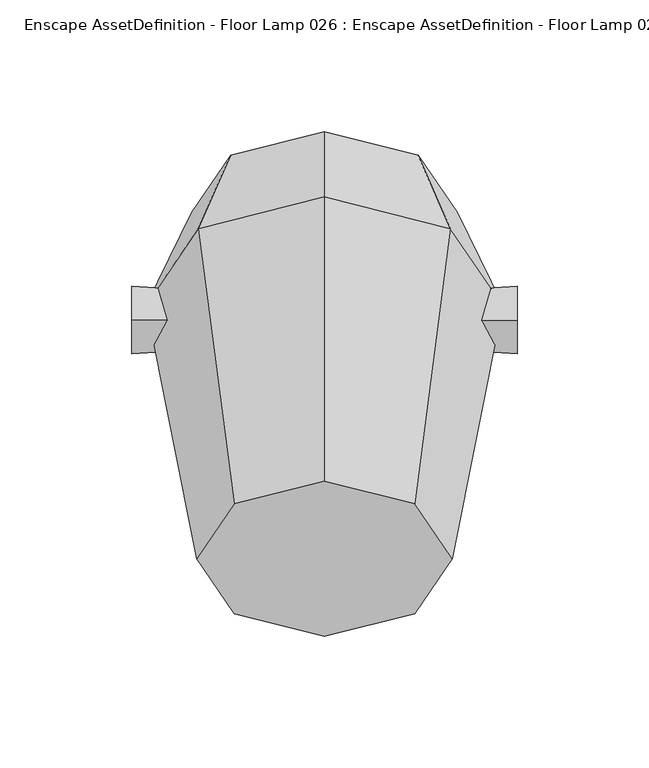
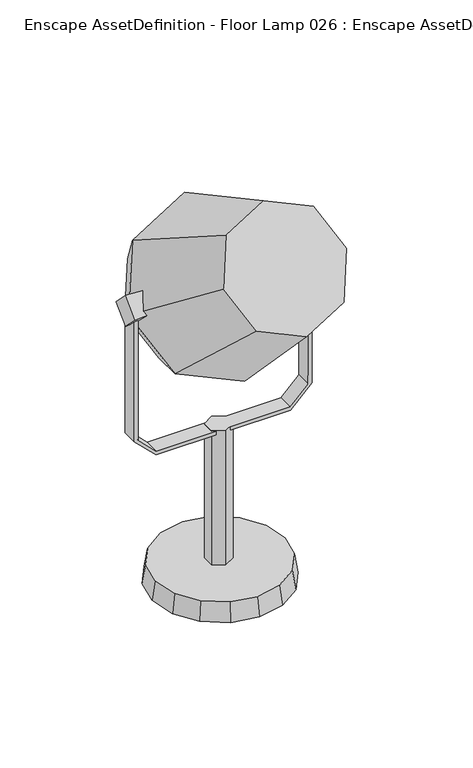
"""IFC4 building model written with IfcOpenShell, lengths in millimetres: geographic element geometry, Enscape AssetDefinition - Floor Lamp 026 : Enscape AssetDefinition - Floor Lamp 026 2."""

from ifc_helpers import new_model, si_unit, origin, place, context, project, spatial, triangles, source, transform, mapped, element, save


def enscape_assetdefinition_floor_lamp_026_enscape_de616a6a(model_context):
    return source(origin(), model_context, "Body", "Tessellation", [
        triangles([(-19.610256, 45.318155, 15.7895272), (0.0, 51.5293992, 0.2342534), (-37.8686188, -39.8936405, 0.2342534), (-37.8686188, 35.843597, 0.2342534), (-49.4775713, -22.519374, 0.2342534), (37.8686188, 35.843597, 0.2342534), (49.4775713, 18.4693305, 0.2342534), (-21.2436797, 46.9522849, 0.2342534), (53.554421, -2.0250222, 0.2342534), (37.8686188, -39.8936405, 0.2342534), (20.4943522, -51.5025931, 0.2342534), (0.0, -55.5794472, 0.2342534), (36.2351951, 34.2101688, 15.7895272), (47.3431813, 17.5852354, 15.7895272), (47.3431813, -21.6352801, 15.7895272), (-36.2351951, -38.2595106, 15.7895272), (51.2436427, -2.0250222, 15.7895272), (36.2351951, -38.2595106, 15.7895272), (49.4775713, -22.519374, 0.2342534), (19.610256, -49.3681985, 15.7895272), (0.0, -53.2686644, 15.7895272), (-19.610256, -49.3681985, 15.7895272), (-20.4943522, -51.5025931, 0.2342534), (-51.2436427, -2.0250222, 15.7895272), (-47.3431813, 17.5852354, 15.7895272), (-47.3431813, -21.6352801, 15.7895272), (-53.554421, -2.0250222, 0.2342534), (-49.4775713, 18.4693305, 0.2342534), (-36.2351951, 34.2101688, 15.7895272), (0.0, 49.2193249, 15.7895272), (20.4943522, 47.4532536, 0.2342534), (19.610256, 45.318155, 15.7895272), (-8.3794979, 4.8381795, 15.7895272), (-8.3794979, -4.8381795, 127.491019), (-8.3794979, -4.8381795, 15.7895272), (0.0, 9.675654, 15.7895272), (0.0, -9.675654, 15.7895272), (8.3794979, 4.8381795, 15.7895272), (8.3794979, -4.8381795, 15.7895272), (8.3794979, -4.8381795, 127.491019), (0.0, -9.675654, 127.491019), (8.3794979, 4.8381795, 127.491019), (-8.3794979, 4.8381795, 127.491019), (0.0, 9.675654, 127.491019), (67.0388177, -6.1787863, 140.9351929), (67.0388177, 6.1787863, 140.9351929), (67.0388177, -6.1787863, 246.9024076), (67.0388177, 6.1787863, 246.9024076), (70.0587097, -6.1787863, 246.9024076), (70.0587097, 6.1787863, 246.9024076), (53.0125391, -6.1787863, 123.6519455), (70.0587097, -6.1787863, 140.6973985), (70.0587097, 6.1787863, 140.6973985), (-53.0125391, -6.1787863, 123.6519455), (53.0125391, 6.1787863, 123.6519455), (52.7747583, 6.1787863, 126.6718375), (-52.7747583, 6.1787863, 126.6718375), (-53.0125391, 6.1787863, 123.6519455), (-70.0587097, -6.1787863, 140.6973985), (-67.0388177, -6.1787863, 140.9351929), (-70.0587097, 6.1787863, 140.6973985), (-67.0388177, 6.1787863, 140.9351929), (-70.0587097, 6.1787863, 246.9024076), (52.7747583, -6.1787863, 126.6718375), (-52.7747583, -6.1787863, 126.6718375), (-70.0587097, -6.1787863, 246.9024076), (-67.0388177, -6.1787863, 246.9024076), (-67.0388177, 6.1787863, 246.9024076), (58.5633494, 0.0, 234.9992097), (58.5633494, 11.9038837, 246.9024076), (73.2465284, -12.8535975, 246.9024076), (73.2465284, 0.0, 234.0487953), (73.2465284, 12.8535975, 246.9024076), (58.5633494, 0.0, 258.8062958), (58.5633494, -11.9038837, 246.9024076), (73.2465284, 0.0, 259.7559834), (-58.5633494, 11.9038837, 246.9024076), (-58.5633494, -11.9038837, 246.9024076), (-58.5633494, 0.0, 234.9992097), (-73.2465284, 12.8535975, 246.9024076), (-73.2465284, 0.0, 259.7559834), (-73.2465284, 0.0, 234.0487953), (-58.5633494, 0.0, 258.8062958), (-73.2465284, -12.8535975, 246.9024076), (50.3630732, 41.0437384, 210.9324919), (0.0, 56.5623224, 199.0949514), (-50.3630732, 41.0437384, 210.9324919), (-35.6121636, 62.6423246, 239.2468247), (0.0, 71.5891123, 250.9750332), (35.6121636, 19.4451498, 182.6188859), (47.859665, -23.2828153, 199.8076077), (0.0, -35.3059413, 184.0455611), (0.0, -120.0887364, 272.7408195), (67.6837184, 5.7448534, 237.8596637), (34.3555247, -111.4580586, 284.055554), (34.3555247, -69.7849392, 338.6852863), (48.5857153, -90.6215034, 311.3707835), (0.0, 46.7956493, 291.67373), (47.859665, 34.771817, 275.9124101), (35.6121636, 62.6423246, 239.2468247), (-47.859665, 34.771817, 275.9124101), (0.0, -61.1535529, 350.0000027), (-34.3555247, -69.7849392, 338.6852863), (-48.5857153, -90.6215034, 311.3707835), (-67.6837184, 5.7448534, 237.8596637), (-34.3555247, -111.4580586, 284.055554), (-35.6121636, 19.4451498, 182.6188859), (-47.859665, -23.2828153, 199.8076077), (0.0, 10.4983633, 170.8906955)], [[96, 102, 93], [109, 92, 108], [93, 108, 92], [108, 87, 107], [109, 108, 107], [93, 106, 108], [106, 93, 102], [104, 106, 102], [106, 104, 105], [108, 105, 87], [106, 105, 108], [105, 88, 87], [105, 101, 88], [101, 89, 88], [105, 104, 103], [102, 103, 104], [105, 103, 101], [103, 102, 98], [101, 98, 89], [103, 98, 101], [98, 100, 89], [102, 96, 99], [98, 99, 100], [102, 99, 98], [99, 96, 97], [97, 96, 93], [93, 95, 97], [100, 99, 94], [99, 97, 94], [97, 95, 91], [91, 95, 93], [91, 92, 109], [97, 91, 94], [91, 93, 92], [85, 94, 91], [100, 94, 85], [91, 109, 90], [85, 91, 90], [86, 89, 100], [86, 88, 89], [86, 87, 88], [86, 107, 87], [86, 109, 107], [86, 90, 109], [86, 85, 90], [86, 100, 85], [78, 83, 81], [78, 84, 82], [78, 81, 84], [78, 77, 83], [77, 81, 83], [80, 82, 84], [77, 80, 81], [80, 84, 81], [78, 79, 77], [79, 82, 80], [78, 82, 79], [79, 80, 77], [70, 74, 76], [75, 76, 74], [70, 75, 74], [75, 71, 76], [71, 72, 73], [71, 73, 76], [70, 76, 73], [70, 69, 75], [69, 72, 71], [69, 70, 73], [69, 71, 75], [69, 73, 72], [62, 68, 67], [62, 63, 68], [68, 63, 66], [68, 66, 67], [60, 67, 66], [62, 67, 60], [65, 62, 60], [65, 57, 62], [64, 56, 57], [64, 57, 65], [62, 61, 63], [66, 63, 61], [57, 61, 62], [65, 60, 59], [60, 66, 59], [66, 61, 59], [65, 59, 54], [57, 58, 61], [58, 54, 59], [56, 58, 57], [58, 59, 61], [56, 55, 58], [65, 54, 51], [58, 55, 51], [65, 51, 64], [58, 51, 54], [51, 55, 53], [56, 53, 55], [64, 51, 52], [51, 53, 52], [47, 49, 50], [50, 49, 52], [50, 52, 53], [56, 46, 53], [46, 50, 53], [46, 48, 50], [47, 50, 48], [45, 52, 49], [56, 64, 45], [45, 47, 48], [45, 49, 47], [64, 52, 45], [56, 45, 46], [45, 48, 46], [37, 41, 34], [33, 35, 34], [33, 43, 44], [39, 38, 42], [39, 40, 41], [38, 36, 44], [34, 41, 40], [43, 34, 40], [44, 43, 40], [38, 39, 37], [33, 36, 38], [37, 35, 33], [37, 34, 35], [33, 34, 43], [33, 44, 36], [39, 42, 40], [39, 41, 37], [38, 44, 42], [40, 42, 44], [33, 38, 37], [2, 32, 31], [31, 32, 13], [31, 13, 6], [1, 30, 2], [13, 32, 30], [2, 30, 32], [13, 30, 16], [30, 29, 16], [26, 16, 29], [30, 1, 29], [28, 29, 4], [28, 25, 29], [27, 25, 28], [24, 26, 29], [29, 25, 24], [27, 24, 25], [5, 26, 24], [5, 16, 26], [5, 24, 27], [5, 3, 16], [23, 22, 16], [23, 16, 3], [16, 22, 21], [23, 12, 21], [11, 21, 12], [23, 21, 22], [11, 20, 21], [10, 20, 11], [16, 21, 18], [21, 20, 18], [10, 18, 20], [19, 18, 10], [19, 15, 18], [18, 17, 16], [18, 15, 17], [17, 13, 16], [19, 17, 15], [17, 14, 13], [7, 6, 13], [7, 14, 17], [7, 13, 14], [19, 9, 17], [7, 17, 9], [23, 3, 8], [12, 23, 8], [11, 12, 8], [10, 11, 8], [19, 10, 8], [9, 19, 8], [7, 9, 8], [6, 7, 8], [31, 6, 8], [8, 2, 31], [28, 4, 8], [27, 28, 8], [5, 27, 8], [8, 4, 29], [3, 5, 8], [1, 2, 8], [8, 29, 1]]),
    ])


if __name__ == "__main__":
    model = new_model("IFC4")
    model_context = context("Model", 3, world=origin())
    ifc_project = project(units=[si_unit("LENGTHUNIT", "METRE", prefix="MILLI")], contexts=[model_context])
    site = spatial("IfcSite", under=ifc_project)
    building = spatial("IfcBuilding", under=site)
    placement = place(None, origin())
    enscape_assetdefinition_floor_lamp_026_enscape_shape = enscape_assetdefinition_floor_lamp_026_enscape_de616a6a(model_context)
    element("IfcGeographicElement", 1, ObjectType="Enscape AssetDefinition - Floor Lamp 026 : Enscape AssetDefinition - Floor Lamp 026 2", at=placement, inside=building, context=model_context, shape_type="MappedRepresentation", body=[
        mapped(enscape_assetdefinition_floor_lamp_026_enscape_shape, transform((0.0, 0.0, 0.0), x_axis=(1.0, 0.0, 0.0), y_axis=(0.0, 1.0, 0.0), z_axis=(0.0, 0.0, 1.0))),
    ])
    save(model, "model.ifc")
